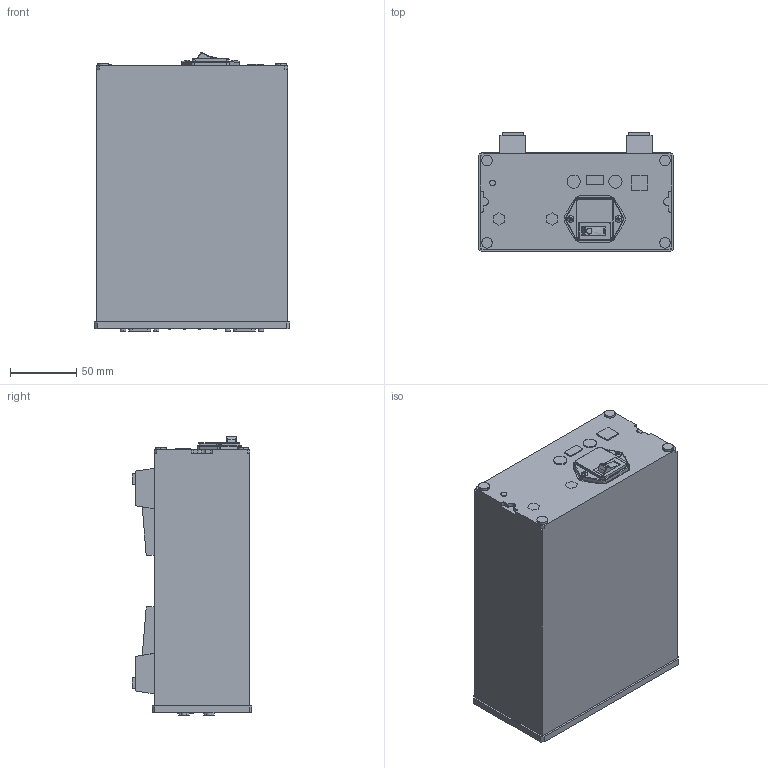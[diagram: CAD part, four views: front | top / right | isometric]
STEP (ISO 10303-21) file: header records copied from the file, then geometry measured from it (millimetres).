
FILE_DESCRIPTION(('STEP AP214'),'1');
FILE_NAME('burster_9206-v3xxxx_evq46td72xy9wa3fwf9bn1zyz.stp','2017-04-21T16:02:55',('TraceParts'),('TraceParts S.A.'),'Spatial InterOp 3D',' ',' ');
FILE_SCHEMA(('automotive_design'));
Length unit declared in the file: millimetre
Products named in the file (1): burster_9206-v3xxxx_evq46td72xy9wa3fwf9bn1zyz
Bounding box: 147 x 90 x 210.03 mm (x, y, z)
Volume: 2108236.2 mm3; surface area: 117871.3 mm2
Topology: 1 solids, 1 shells, 1161 faces, 3039 edges, 1980 vertices
Faces by surface type: plane 552, bspline 448, cylinder 111, torus 18, sphere 16, cone 16
Entity records: 49585 total; most frequent: CARTESIAN_POINT 14694, ORIENTED_EDGE 6074, DIRECTION 3776, EDGE_CURVE 3037, VERTEX_POINT 2009, LINE 1700, VECTOR 1700, EDGE_LOOP 1292
